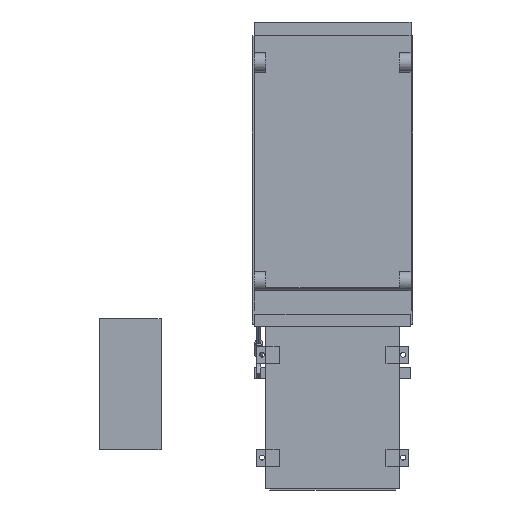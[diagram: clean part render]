
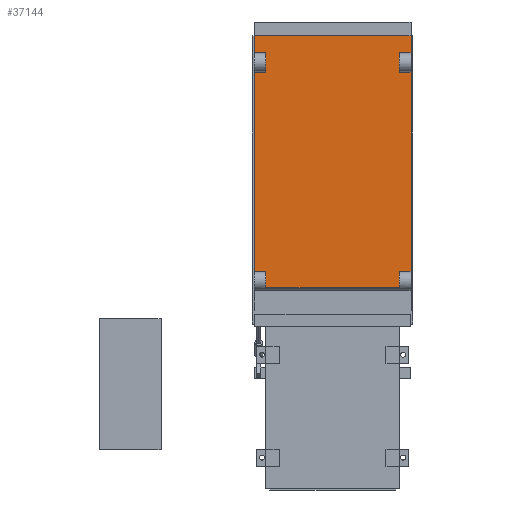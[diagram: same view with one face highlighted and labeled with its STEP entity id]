
A CAD part, front view. The second image highlights one B-rep face of the part: STEP entity #37144.
In plain terms, the highlighted planar face has unit normal (0, -1, 0).
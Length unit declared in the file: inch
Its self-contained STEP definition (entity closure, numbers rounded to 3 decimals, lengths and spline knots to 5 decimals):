
#5685=DIRECTION('',(-1.,0.,0.));
#5686=VECTOR('',#5685,41.125);
#5687=CARTESIAN_POINT('',(20.5625,5.5,75.625));
#5688=LINE('',#5687,#5686);
#7522=DIRECTION('',(0.,0.,1.));
#7523=VECTOR('',#7522,52.3125);
#7524=CARTESIAN_POINT('',(20.5625,5.5,13.8125));
#7525=LINE('',#7524,#7523);
#7526=DIRECTION('',(-1.,0.,0.));
#7527=VECTOR('',#7526,3.0625);
#7528=CARTESIAN_POINT('',(20.5625,5.5,13.8125));
#7529=LINE('',#7528,#7527);
#7530=DIRECTION('',(0.,0.,-1.));
#7531=VECTOR('',#7530,4.2775);
#7532=CARTESIAN_POINT('',(17.5,5.5,13.8125));
#7533=LINE('',#7532,#7531);
#7534=DIRECTION('',(-1.,0.,0.));
#7535=VECTOR('',#7534,3.0625);
#7536=CARTESIAN_POINT('',(-17.5,5.5,13.8125));
#7537=LINE('',#7536,#7535);
#7538=DIRECTION('',(0.,0.,1.));
#7539=VECTOR('',#7538,52.3125);
#7540=CARTESIAN_POINT('',(-20.5625,5.5,13.8125));
#7541=LINE('',#7540,#7539);
#7542=DIRECTION('',(-1.,0.,0.));
#7543=VECTOR('',#7542,3.0625);
#7544=CARTESIAN_POINT('',(-17.5,5.5,71.125));
#7545=LINE('',#7544,#7543);
#7546=DIRECTION('',(0.,0.,1.));
#7547=VECTOR('',#7546,4.5);
#7548=CARTESIAN_POINT('',(-20.5625,5.5,71.125));
#7549=LINE('',#7548,#7547);
#7550=DIRECTION('',(0.,0.,1.));
#7551=VECTOR('',#7550,4.5);
#7552=CARTESIAN_POINT('',(20.5625,5.5,71.125));
#7553=LINE('',#7552,#7551);
#7554=DIRECTION('',(-1.,0.,0.));
#7555=VECTOR('',#7554,3.0625);
#7556=CARTESIAN_POINT('',(20.5625,5.5,71.125));
#7557=LINE('',#7556,#7555);
#7558=DIRECTION('',(0.,0.,-1.));
#7559=VECTOR('',#7558,5.);
#7560=CARTESIAN_POINT('',(17.5,5.5,71.125));
#7561=LINE('',#7560,#7559);
#7586=DIRECTION('',(0.,0.,-1.));
#7587=VECTOR('',#7586,4.2775);
#7588=CARTESIAN_POINT('',(-17.5,5.5,13.8125));
#7589=LINE('',#7588,#7587);
#7590=DIRECTION('',(0.,0.,-1.));
#7591=VECTOR('',#7590,5.);
#7592=CARTESIAN_POINT('',(-17.5,5.5,71.125));
#7593=LINE('',#7592,#7591);
#7638=DIRECTION('',(-1.,0.,0.));
#7639=VECTOR('',#7638,35.);
#7640=CARTESIAN_POINT('',(17.5,5.5,9.535));
#7641=LINE('',#7640,#7639);
#7650=DIRECTION('',(-1.,0.,0.));
#7651=VECTOR('',#7650,3.0625);
#7652=CARTESIAN_POINT('',(-17.5,5.5,66.125));
#7653=LINE('',#7652,#7651);
#7662=DIRECTION('',(-1.,0.,0.));
#7663=VECTOR('',#7662,3.0625);
#7664=CARTESIAN_POINT('',(20.5625,5.5,66.125));
#7665=LINE('',#7664,#7663);
#24912=CARTESIAN_POINT('',(-20.5625,5.5,13.8125));
#24913=VERTEX_POINT('',#24912);
#24914=CARTESIAN_POINT('',(-20.5625,5.5,66.125));
#24915=VERTEX_POINT('',#24914);
#24920=CARTESIAN_POINT('',(-20.5625,5.5,71.125));
#24921=VERTEX_POINT('',#24920);
#24922=CARTESIAN_POINT('',(-20.5625,5.5,75.625));
#24923=VERTEX_POINT('',#24922);
#24974=CARTESIAN_POINT('',(20.5625,5.5,13.8125));
#24975=VERTEX_POINT('',#24974);
#24976=CARTESIAN_POINT('',(20.5625,5.5,66.125));
#24977=VERTEX_POINT('',#24976);
#24982=CARTESIAN_POINT('',(20.5625,5.5,71.125));
#24983=VERTEX_POINT('',#24982);
#24984=CARTESIAN_POINT('',(20.5625,5.5,75.625));
#24985=VERTEX_POINT('',#24984);
#24996=CARTESIAN_POINT('',(17.5,5.5,9.535));
#24997=CARTESIAN_POINT('',(-17.5,5.5,9.535));
#24998=VERTEX_POINT('',#24996);
#24999=VERTEX_POINT('',#24997);
#25008=CARTESIAN_POINT('',(-17.5,5.5,13.8125));
#25009=VERTEX_POINT('',#25008);
#25010=CARTESIAN_POINT('',(17.5,5.5,13.8125));
#25011=VERTEX_POINT('',#25010);
#25012=CARTESIAN_POINT('',(-17.5,5.5,66.125));
#25014=VERTEX_POINT('',#25012);
#25016=CARTESIAN_POINT('',(17.5,5.5,66.125));
#25018=VERTEX_POINT('',#25016);
#25024=CARTESIAN_POINT('',(-17.5,5.5,71.125));
#25025=VERTEX_POINT('',#25024);
#25026=CARTESIAN_POINT('',(17.5,5.5,71.125));
#25027=VERTEX_POINT('',#25026);
#37110=CARTESIAN_POINT('',(21.0625,5.5,13.8125));
#37111=DIRECTION('',(0.,-1.,0.));
#37112=DIRECTION('',(0.,0.,1.));
#37113=AXIS2_PLACEMENT_3D('',#37110,#37111,#37112);
#37114=PLANE('',#37113);
#37115=ORIENTED_EDGE('',*,*,#35398,.F.);
#37117=ORIENTED_EDGE('',*,*,#37116,.T.);
#37119=ORIENTED_EDGE('',*,*,#37118,.T.);
#37121=ORIENTED_EDGE('',*,*,#37120,.T.);
#37123=ORIENTED_EDGE('',*,*,#37122,.F.);
#37125=ORIENTED_EDGE('',*,*,#37124,.T.);
#37126=ORIENTED_EDGE('',*,*,#33727,.T.);
#37128=ORIENTED_EDGE('',*,*,#37127,.F.);
#37130=ORIENTED_EDGE('',*,*,#37129,.F.);
#37132=ORIENTED_EDGE('',*,*,#37131,.T.);
#37133=ORIENTED_EDGE('',*,*,#33719,.T.);
#37134=ORIENTED_EDGE('',*,*,#36048,.F.);
#37135=ORIENTED_EDGE('',*,*,#35406,.F.);
#37137=ORIENTED_EDGE('',*,*,#37136,.T.);
#37139=ORIENTED_EDGE('',*,*,#37138,.T.);
#37141=ORIENTED_EDGE('',*,*,#37140,.F.);
#37142=EDGE_LOOP('',(#37115,#37117,#37119,#37121,#37123,#37125,#37126,#37128,
#37130,#37132,#37133,#37134,#37135,#37137,#37139,#37141));
#37143=FACE_OUTER_BOUND('',#37142,.F.);
#37144=ADVANCED_FACE('',(#37143),#37114,.T.);
#33719=EDGE_CURVE('',#24921,#24923,#7549,.T.);
#33727=EDGE_CURVE('',#24913,#24915,#7541,.T.);
#35398=EDGE_CURVE('',#24975,#24977,#7525,.T.);
#35406=EDGE_CURVE('',#24983,#24985,#7553,.T.);
#36048=EDGE_CURVE('',#24985,#24923,#5688,.T.);
#37116=EDGE_CURVE('',#24975,#25011,#7529,.T.);
#37118=EDGE_CURVE('',#25011,#24998,#7533,.T.);
#37120=EDGE_CURVE('',#24998,#24999,#7641,.T.);
#37122=EDGE_CURVE('',#25009,#24999,#7589,.T.);
#37124=EDGE_CURVE('',#25009,#24913,#7537,.T.);
#37127=EDGE_CURVE('',#25014,#24915,#7653,.T.);
#37129=EDGE_CURVE('',#25025,#25014,#7593,.T.);
#37131=EDGE_CURVE('',#25025,#24921,#7545,.T.);
#37136=EDGE_CURVE('',#24983,#25027,#7557,.T.);
#37138=EDGE_CURVE('',#25027,#25018,#7561,.T.);
#37140=EDGE_CURVE('',#24977,#25018,#7665,.T.);
